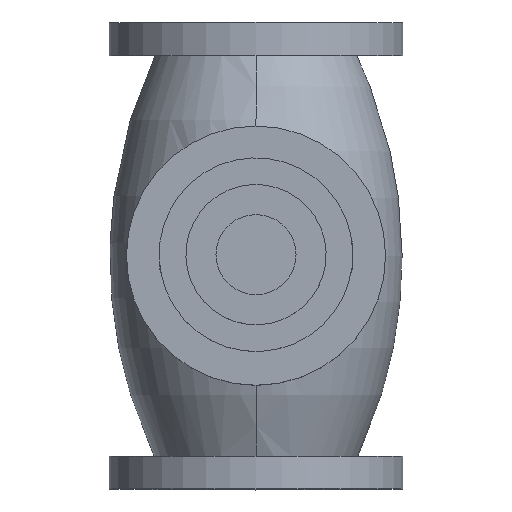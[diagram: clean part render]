
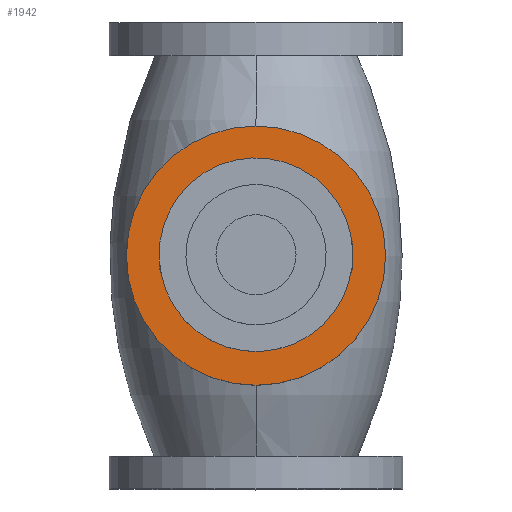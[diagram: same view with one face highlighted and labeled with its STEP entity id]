
A CAD part, top view. The second image highlights one B-rep face of the part: STEP entity #1942.
In plain terms, the highlighted planar face has unit normal (0, 0, 1).
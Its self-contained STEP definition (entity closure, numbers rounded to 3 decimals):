
#482 = AXIS2_PLACEMENT_3D ( 'NONE', #6771, #8344, #4374 ) ;
#724 = ORIENTED_EDGE ( 'NONE', *, *, #4561, .T. ) ;
#756 = EDGE_CURVE ( 'NONE', #2378, #5988, #9941, .T. ) ;
#981 = AXIS2_PLACEMENT_3D ( 'NONE', #4987, #5044, #1882 ) ;
#1560 = CARTESIAN_POINT ( 'NONE',  ( 29.92, 11.593, 74.08 ) ) ;
#1572 = DIRECTION ( 'NONE',  ( 1., 0., 0. ) ) ;
#1882 = DIRECTION ( 'NONE',  ( -1., 0., 0. ) ) ;
#1942 = ADVANCED_FACE ( 'NONE', ( #8178, #7328 ), #2629, .T. ) ;
#2158 = EDGE_LOOP ( 'NONE', ( #6465, #724 ) ) ;
#2321 = CIRCLE ( 'NONE', #981, 97. ) ;
#2378 = VERTEX_POINT ( 'NONE', #5187 ) ;
#2629 = PLANE ( 'NONE',  #6544 ) ;
#2724 = DIRECTION ( 'NONE',  ( 0., 0., 1. ) ) ;
#2907 = EDGE_CURVE ( 'NONE', #5988, #2378, #2321, .T. ) ;
#3495 = DIRECTION ( 'NONE',  ( 1., 0., 0. ) ) ;
#3976 = DIRECTION ( 'NONE',  ( 0., 0., -1. ) ) ;
#4374 = DIRECTION ( 'NONE',  ( -1., 0., 0. ) ) ;
#4561 = EDGE_CURVE ( 'NONE', #8589, #4871, #5826, .T. ) ;
#4860 = CARTESIAN_POINT ( 'NONE',  ( 115.328, 11.593, 74.08 ) ) ;
#4871 = VERTEX_POINT ( 'NONE', #1560 ) ;
#4926 = CARTESIAN_POINT ( 'NONE',  ( 18.328, 11.593, 74.08 ) ) ;
#4987 = CARTESIAN_POINT ( 'NONE',  ( 18.328, 11.593, 74.08 ) ) ;
#5044 = DIRECTION ( 'NONE',  ( 0., 0., -1. ) ) ;
#5093 = DIRECTION ( 'NONE',  ( 0., 0., -1. ) ) ;
#5187 = CARTESIAN_POINT ( 'NONE',  ( -78.672, 11.593, 74.08 ) ) ;
#5519 = ORIENTED_EDGE ( 'NONE', *, *, #2907, .F. ) ;
#5826 = CIRCLE ( 'NONE', #10062, 11.593 ) ;
#5988 = VERTEX_POINT ( 'NONE', #4860 ) ;
#6465 = ORIENTED_EDGE ( 'NONE', *, *, #7322, .T. ) ;
#6544 = AXIS2_PLACEMENT_3D ( 'NONE', #4926, #2724, #3495 ) ;
#6771 = CARTESIAN_POINT ( 'NONE',  ( 18.328, 11.593, 74.08 ) ) ;
#7069 = EDGE_LOOP ( 'NONE', ( #5519, #8833 ) ) ;
#7322 = EDGE_CURVE ( 'NONE', #4871, #8589, #7779, .T. ) ;
#7328 = FACE_OUTER_BOUND ( 'NONE', #7069, .T. ) ;
#7779 = CIRCLE ( 'NONE', #7948, 11.593 ) ;
#7943 = CARTESIAN_POINT ( 'NONE',  ( 18.328, 11.593, 74.08 ) ) ;
#7948 = AXIS2_PLACEMENT_3D ( 'NONE', #9221, #5093, #9066 ) ;
#8178 = FACE_BOUND ( 'NONE', #2158, .T. ) ;
#8344 = DIRECTION ( 'NONE',  ( 0., 0., -1. ) ) ;
#8589 = VERTEX_POINT ( 'NONE', #9050 ) ;
#8833 = ORIENTED_EDGE ( 'NONE', *, *, #756, .F. ) ;
#9050 = CARTESIAN_POINT ( 'NONE',  ( 6.735, 11.593, 74.08 ) ) ;
#9066 = DIRECTION ( 'NONE',  ( 1., 0., 0. ) ) ;
#9221 = CARTESIAN_POINT ( 'NONE',  ( 18.328, 11.593, 74.08 ) ) ;
#9941 = CIRCLE ( 'NONE', #482, 97. ) ;
#10062 = AXIS2_PLACEMENT_3D ( 'NONE', #7943, #3976, #1572 ) ;
